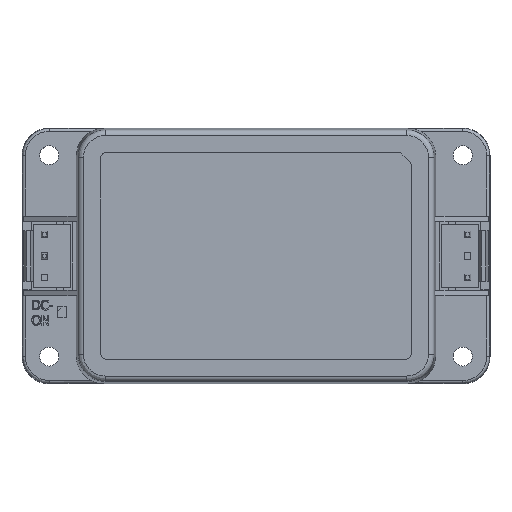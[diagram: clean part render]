
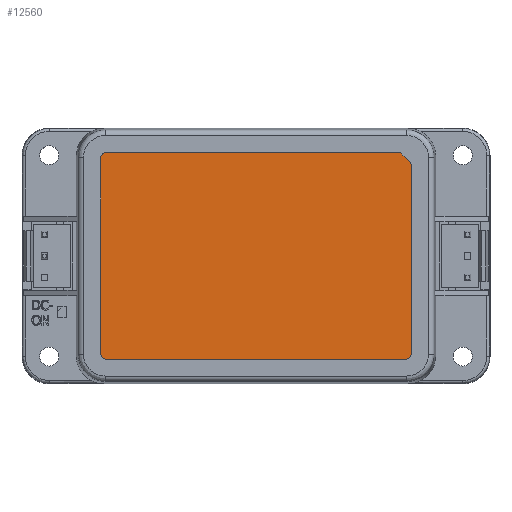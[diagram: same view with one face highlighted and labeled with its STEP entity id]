
A CAD part, top view. The second image highlights one B-rep face of the part: STEP entity #12560.
In plain terms, the highlighted planar face has unit normal (0, 0, 1).
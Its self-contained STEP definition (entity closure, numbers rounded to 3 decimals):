
#349=CIRCLE('',#13316,1.);
#351=CIRCLE('',#13320,1.);
#353=CIRCLE('',#13324,1.);
#355=CIRCLE('',#13328,1.);
#357=CIRCLE('',#13331,1.);
#980=FACE_OUTER_BOUND('',#1630,.T.);
#1630=EDGE_LOOP('',(#9714,#9715,#9716,#9717,#9718,#9719,#9720,#9721,#9722,
#9723));
#2882=LINE('',#18958,#4280);
#2886=LINE('',#18970,#4284);
#2890=LINE('',#18982,#4288);
#2895=LINE('',#18996,#4293);
#2896=LINE('',#18998,#4294);
#4280=VECTOR('',#15618,55.);
#4284=VECTOR('',#15630,36.);
#4288=VECTOR('',#15642,53.586);
#4293=VECTOR('',#15655,34.586);
#4294=VECTOR('',#15656,2.);
#5445=VERTEX_POINT('',#18948);
#5446=VERTEX_POINT('',#18949);
#5449=VERTEX_POINT('',#18957);
#5451=VERTEX_POINT('',#18963);
#5453=VERTEX_POINT('',#18969);
#5455=VERTEX_POINT('',#18975);
#5457=VERTEX_POINT('',#18981);
#5459=VERTEX_POINT('',#18987);
#5460=VERTEX_POINT('',#18988);
#5463=VERTEX_POINT('',#18997);
#6954=EDGE_CURVE('',#5445,#5446,#349,.T.);
#6958=EDGE_CURVE('',#5445,#5449,#2882,.T.);
#6961=EDGE_CURVE('',#5451,#5449,#351,.T.);
#6964=EDGE_CURVE('',#5451,#5453,#2886,.T.);
#6967=EDGE_CURVE('',#5455,#5453,#353,.T.);
#6970=EDGE_CURVE('',#5455,#5457,#2890,.T.);
#6973=EDGE_CURVE('',#5459,#5460,#355,.T.);
#6977=EDGE_CURVE('',#5459,#5446,#2895,.T.);
#6978=EDGE_CURVE('',#5460,#5463,#2896,.T.);
#6979=EDGE_CURVE('',#5463,#5457,#357,.T.);
#9714=ORIENTED_EDGE('',*,*,#6954,.T.);
#9715=ORIENTED_EDGE('',*,*,#6977,.F.);
#9716=ORIENTED_EDGE('',*,*,#6973,.T.);
#9717=ORIENTED_EDGE('',*,*,#6978,.T.);
#9718=ORIENTED_EDGE('',*,*,#6979,.T.);
#9719=ORIENTED_EDGE('',*,*,#6970,.F.);
#9720=ORIENTED_EDGE('',*,*,#6967,.T.);
#9721=ORIENTED_EDGE('',*,*,#6964,.F.);
#9722=ORIENTED_EDGE('',*,*,#6961,.T.);
#9723=ORIENTED_EDGE('',*,*,#6958,.F.);
#11413=PLANE('',#13330);
#12560=ADVANCED_FACE('',(#980),#11413,.F.);
#13316=AXIS2_PLACEMENT_3D('',#18950,#15610,#15611);
#13320=AXIS2_PLACEMENT_3D('',#18964,#15623,#15624);
#13324=AXIS2_PLACEMENT_3D('',#18976,#15635,#15636);
#13328=AXIS2_PLACEMENT_3D('',#18989,#15647,#15648);
#13330=AXIS2_PLACEMENT_3D('',#18995,#15653,#15654);
#13331=AXIS2_PLACEMENT_3D('',#18999,#15657,#15658);
#15610=DIRECTION('center_axis',(0.,0.,1.));
#15611=DIRECTION('ref_axis',(0.707,-0.707,0.));
#15618=DIRECTION('',(-1.,0.,0.));
#15623=DIRECTION('center_axis',(0.,0.,1.));
#15624=DIRECTION('ref_axis',(-0.707,-0.707,0.));
#15630=DIRECTION('',(0.,1.,0.));
#15635=DIRECTION('center_axis',(0.,0.,1.));
#15636=DIRECTION('ref_axis',(-0.707,0.707,0.));
#15642=DIRECTION('',(1.,0.,0.));
#15647=DIRECTION('center_axis',(0.,0.,1.));
#15648=DIRECTION('ref_axis',(0.924,0.383,0.));
#15653=DIRECTION('center_axis',(0.,0.,-1.));
#15654=DIRECTION('ref_axis',(-1.,0.,0.));
#15655=DIRECTION('',(0.,-1.,0.));
#15656=DIRECTION('',(-0.707,0.707,0.));
#15657=DIRECTION('center_axis',(0.,0.,1.));
#15658=DIRECTION('ref_axis',(0.383,0.924,0.));
#18948=CARTESIAN_POINT('',(27.5,-19.,23.85));
#18949=CARTESIAN_POINT('',(28.5,-18.,23.85));
#18950=CARTESIAN_POINT('Origin',(27.5,-18.,23.85));
#18957=CARTESIAN_POINT('',(-27.5,-19.,23.85));
#18958=CARTESIAN_POINT('',(28.5,-19.,23.85));
#18963=CARTESIAN_POINT('',(-28.5,-18.,23.85));
#18964=CARTESIAN_POINT('Origin',(-27.5,-18.,23.85));
#18969=CARTESIAN_POINT('',(-28.5,18.,23.85));
#18970=CARTESIAN_POINT('',(-28.5,-19.,23.85));
#18975=CARTESIAN_POINT('',(-27.5,19.,23.85));
#18976=CARTESIAN_POINT('Origin',(-27.5,18.,23.85));
#18981=CARTESIAN_POINT('',(26.086,19.,23.85));
#18982=CARTESIAN_POINT('',(-28.5,19.,23.85));
#18987=CARTESIAN_POINT('',(28.5,16.586,23.85));
#18988=CARTESIAN_POINT('',(28.207,17.293,23.85));
#18989=CARTESIAN_POINT('Origin',(27.5,16.586,23.85));
#18995=CARTESIAN_POINT('Origin',(0.,0.,23.85));
#18996=CARTESIAN_POINT('',(28.5,19.,23.85));
#18997=CARTESIAN_POINT('',(26.793,18.707,23.85));
#18998=CARTESIAN_POINT('',(25.125,20.375,23.85));
#18999=CARTESIAN_POINT('Origin',(26.086,18.,23.85));
